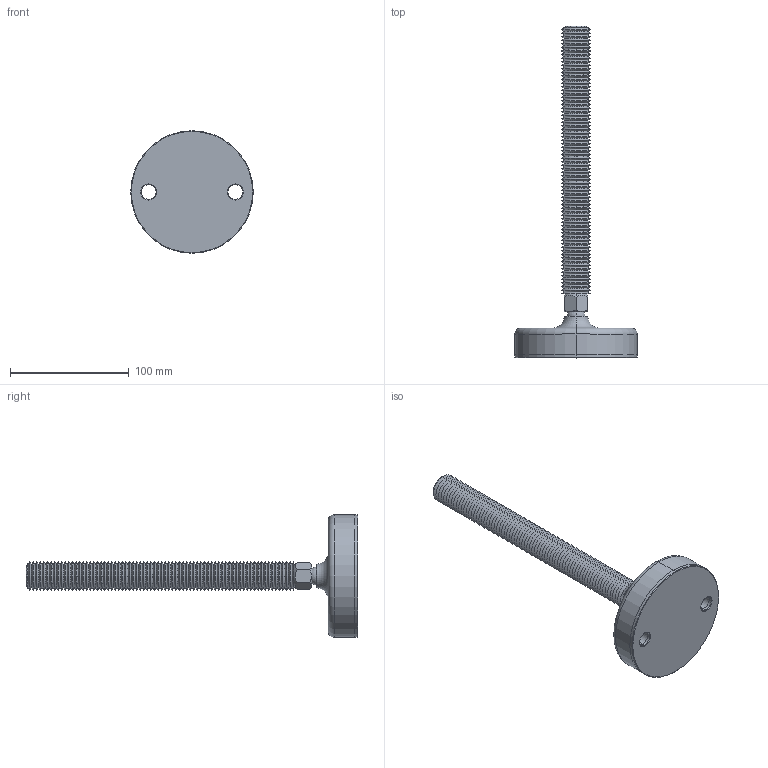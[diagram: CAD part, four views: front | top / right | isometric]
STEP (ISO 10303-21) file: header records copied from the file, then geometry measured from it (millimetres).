
FILE_DESCRIPTION (( 'STEP AP203' ), '1' );
FILE_NAME ('34724.W2406.step', '2019-11-28T22:21:30', ( '' ), ( '' ), 'SwSTEP 2.0', 'SolidWorks 2017', '' );
FILE_SCHEMA (( 'CONFIG_CONTROL_DESIGN' ));
Length unit declared in the file: millimetre
Products named in the file (4): Part2_34724.W2406; Part1_34724.W2406; Part3_34724.W2406; 34724.W2406
Assembly tree (3 placements, depth 2):
  34724.W2406
    Part1_34724.W2406
    Part2_34724.W2406
    Part3_34724.W2406
Bounding box: 103 x 279 x 103 mm (x, y, z)
Volume: 292180.8 mm3; surface area: 74577.2 mm2
Topology: 3 solids, 3 shells, 352 faces, 719 edges, 373 vertices
Faces by surface type: cone 318, plane 14, cylinder 12, sphere 4, torus 4
Entity records: 9466 total; most frequent: DIRECTION 1776, CARTESIAN_POINT 1588, ORIENTED_EDGE 1420, AXIS2_PLACEMENT_3D 720, EDGE_CURVE 710, VERTEX_POINT 368, EDGE_LOOP 364, CIRCLE 362
